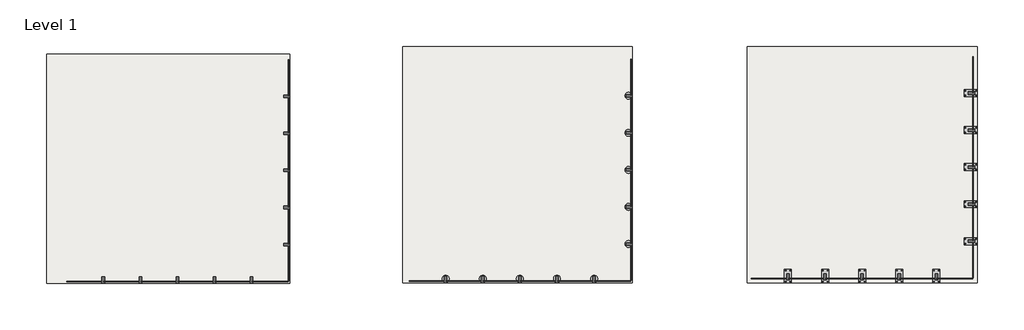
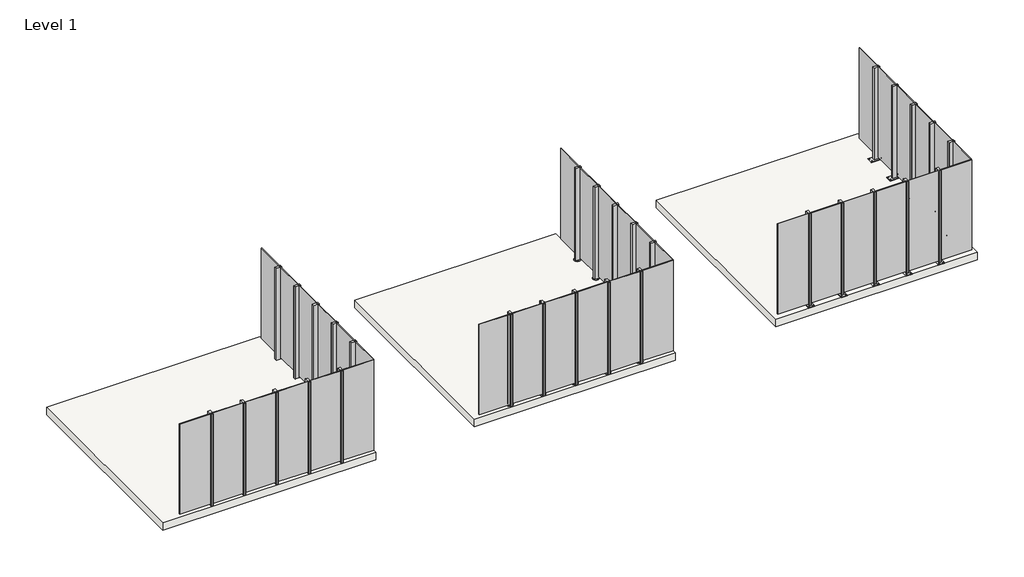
# One storey: 6 railings, 3 slabs.
"""IFC4 building model written with IfcOpenShell, lengths in millimetres."""

from ifc_helpers import new_model, si_unit, frame, origin, place, context, project, spatial, polyline, outline, extrude, transform, mapped, element, save
from components import railing_cea4295c, railing_44f263d3, railing_8d1bc7e0, railing_b1b01f98, railing_ac6307d7, railing_0a416ebc

model = new_model("IFC4")

# Units and contexts
model_context = context("Model", 3, world=origin())
ifc_project = project(units=[si_unit("LENGTHUNIT", "METRE", prefix="MILLI")], contexts=[model_context])

# Site, building, storey
site = spatial("IfcSite", under=ifc_project)
building = spatial("IfcBuilding", under=site)
storey = spatial("IfcBuildingStorey", under=building, Name="Level 1", Elevation=0.0)

# Railings
placement = place(None, origin())
railing_shape = railing_cea4295c(model_context)
element("IfcRailing", 1, ObjectType="TOP CONCRETE ANCHOR _TOP MOUNT STRUC_GLASS_8'", at=placement, inside=storey, context=model_context, shape_type="MappedRepresentation", body=[
    mapped(railing_shape, transform((0.0, 0.0, 0.0), x_axis=(1.0, 0.0, 0.0), y_axis=(0.0, 1.0, 0.0), z_axis=(0.0, 0.0, 1.0))),
])
railing_2_shape = railing_44f263d3(model_context)
element("IfcRailing", 2, ObjectType="TOP CONCRETE CORE_TOP MOUNT STRUC_GLASS_8'", at=placement, inside=storey, context=model_context, shape_type="MappedRepresentation", body=[
    mapped(railing_2_shape, transform((0.0, 0.0, 0.0), x_axis=(1.0, 0.0, 0.0), y_axis=(0.0, 1.0, 0.0), z_axis=(0.0, 0.0, 1.0))),
])
railing_3_shape = railing_8d1bc7e0(model_context)
element("IfcRailing", 3, ObjectType="TOP STEEL CHANNEL WELD_TOP MOUNT STRUC_GLASS_8'", at=placement, inside=storey, context=model_context, shape_type="MappedRepresentation", body=[
    mapped(railing_3_shape, transform((0.0, 0.0, 0.0), x_axis=(1.0, 0.0, 0.0), y_axis=(0.0, 1.0, 0.0), z_axis=(0.0, 0.0, 1.0))),
])
railing_4_shape = railing_b1b01f98(model_context)
element("IfcRailing", 4, ObjectType="TOP CONCRETE ANCHOR _TOP MOUNT STRUC_GLASS_8'", at=placement, inside=storey, context=model_context, shape_type="MappedRepresentation", body=[
    mapped(railing_4_shape, transform((0.0, 0.0, 0.0), x_axis=(1.0, 0.0, 0.0), y_axis=(0.0, 1.0, 0.0), z_axis=(0.0, 0.0, 1.0))),
])
railing_5_shape = railing_ac6307d7(model_context)
element("IfcRailing", 5, ObjectType="TOP CONCRETE CORE_TOP MOUNT STRUC_GLASS_8'", at=placement, inside=storey, context=model_context, shape_type="MappedRepresentation", body=[
    mapped(railing_5_shape, transform((0.0, 0.0, 0.0), x_axis=(1.0, 0.0, 0.0), y_axis=(0.0, 1.0, 0.0), z_axis=(0.0, 0.0, 1.0))),
])
railing_6_shape = railing_0a416ebc(model_context)
element("IfcRailing", 6, ObjectType="TOP STEEL CHANNEL WELD_TOP MOUNT STRUC_GLASS_8'", at=placement, inside=storey, context=model_context, shape_type="MappedRepresentation", body=[
    mapped(railing_6_shape, transform((0.0, 0.0, 0.0), x_axis=(1.0, 0.0, 0.0), y_axis=(0.0, 1.0, 0.0), z_axis=(0.0, 0.0, 1.0))),
])

# Slabs
element("IfcSlab", 7, ObjectType="_FLOOR 20", at=placement, inside=storey, context=model_context, shape_type="SweptSolid", body=[
    extrude(outline(polyline([(101472.8424844, -64278.9019582), (101472.8424844, -69460.5019582), (96430.9424844, -69460.5019582), (96430.9424844, -64278.9019582), (101472.8424844, -64278.9019582)])), frame((0.0, 0.0, -200.0), z_axis=(0.0, 0.0, 1.0), x_axis=(1.0, 0.0, 0.0)), (0.0, 0.0, 1.0), 200.0),
])
element("IfcSlab", 8, ObjectType="_FLOOR 20", at=placement, inside=storey, context=model_context, shape_type="SweptSolid", body=[
    extrude(outline(polyline([(93913.9645164, -64283.7447143), (93913.9645164, -69465.3447143), (88884.7645164, -69465.3447143), (88884.7645164, -64283.7447143), (93913.9645164, -64283.7447143)])), frame((0.0, 0.0, -200.0), z_axis=(0.0, 0.0, 1.0), x_axis=(1.0, 0.0, 0.0)), (0.0, 0.0, 1.0), 200.0),
])
element("IfcSlab", 9, ObjectType="_FLOOR 20", at=placement, inside=storey, context=model_context, shape_type="SweptSolid", body=[
    extrude(outline(polyline([(86410.8058391, -64444.9621435), (86410.8058391, -69474.1621435), (81076.8058391, -69474.1621435), (81076.8058391, -64444.9621435), (86410.8058391, -64444.9621435)])), frame((0.0, 0.0, -200.0), z_axis=(0.0, 0.0, 1.0), x_axis=(1.0, 0.0, 0.0)), (0.0, 0.0, 1.0), 200.0),
])

save(model, "model.ifc")
